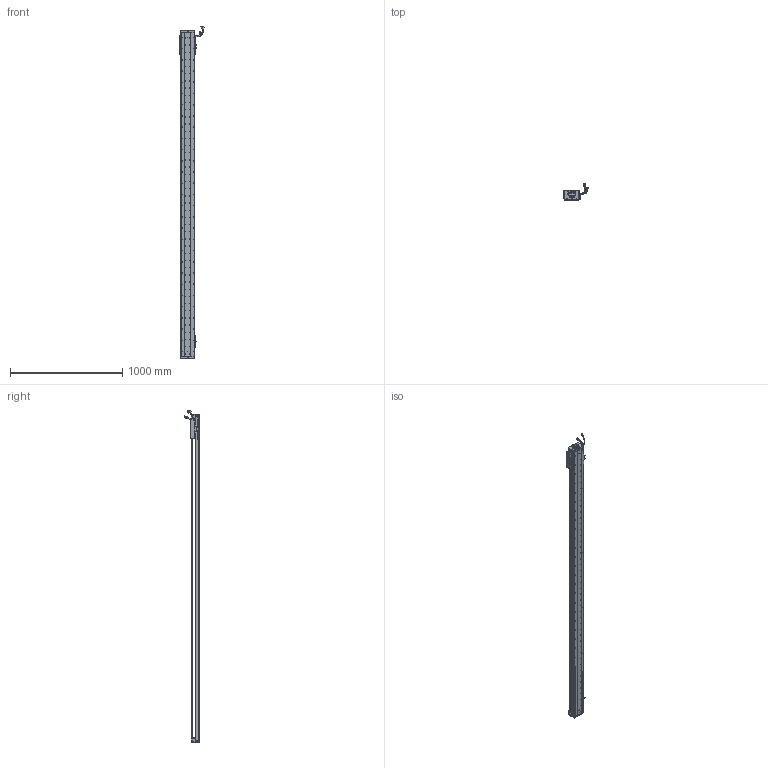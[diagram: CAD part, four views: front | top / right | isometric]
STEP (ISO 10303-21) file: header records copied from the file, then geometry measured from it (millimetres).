
FILE_DESCRIPTION (( 'STEP AP203' ), '1' );
FILE_NAME ('Z2-RY120D-1-L500-B-K.SLDASM_2650.step', '2021-05-17T05:39:50', ( '盈信电脑' ), ( '东莞市道滘镇水果街19号' ), 'SwSTEP 2.0', 'SolidWorks 2016', '' );
FILE_SCHEMA (( 'CONFIG_CONTROL_DESIGN' ));
Length unit declared in the file: millimetre
Products named in the file (37): 080黍杅芛假蚾釱21遴; LABEL; HARNESS-Part-2; Z-RY120D詩湍狟揤裔; Z-RY120D詩湍奻揤裔; COVER-Part-1; LABEL-Part-1; SEAL; SHIELDPLATE; 120-Z-臏賑輸盄裔(21遴); SCREW-M1.6; PSLH080_PSLF2; SCREW-M1.7-1; SCREW-M1.7; RY100FB-遵嫖萇覜茼え; SCREW-M1.6-1; SCALE-Part-2; SCREW-M1.6-2; HARNESS-Part-1; Z2-RY120D-1-L500-B-K.SLDASM_2650; 140雄赽晤鎢ん堤盄; SCALE-Part-1; HOLDER0; PBU_SHEET; 140蚥薯蝶輸; Z2-RY120-500-倰第菁釱_2650; COVER; Z2-RY120-L500詩湍100mm遵_2650; SCREW-M1.6-3; Z-120詩湍傷裔啣; 覜茼ん672; 672嫖萇羲壽假蚾釱; Z2-RY120铝滑块（21款）; 榋妏寠巭燃_暯_M2_2; SCALE; HARNESS; SEAL-Part-1
Assembly tree (43 placements, depth 4):
  Z2-RY120D-1-L500-B-K.SLDASM_2650
    Z2-RY120-500-倰第菁釱_2650
    覜茼ん672  x3
    672嫖萇羲壽假蚾釱  x2
    Z2-RY120铝滑块（21款）
    PSLH080_PSLF2
      SCALE
        SCALE-Part-1
        SCALE-Part-2
      HARNESS
        HARNESS-Part-1
        HARNESS-Part-2
      LABEL
        LABEL-Part-1
      COVER
        COVER-Part-1
      SEAL
        SEAL-Part-1
      榋妏寠巭燃_暯_M2_2
      SHIELDPLATE
      SCREW-M1.7
      SCREW-M1.7-1
      PBU_SHEET
      SCREW-M1.6
      SCREW-M1.6-1
      SCREW-M1.6-2
      SCREW-M1.6-3
      HOLDER0
    080黍杅芛假蚾釱21遴
    120-Z-臏賑輸盄裔(21遴)
    140雄赽晤鎢ん堤盄
    140蚥薯蝶輸  x2
    RY100FB-遵嫖萇覜茼え
    Z-120詩湍傷裔啣  x2
    Z-RY120D詩湍奻揤裔  x2
    Z-RY120D詩湍狟揤裔  x2
    Z2-RY120-L500詩湍100mm遵_2650
Bounding box: 222.83 x 140.94 x 2958.99 mm (x, y, z)
Volume: 6691875 mm3; surface area: 2376894.6 mm2
Topology: 38 solids, 38 shells, 3837 faces, 11010 edges, 6948 vertices
Faces by surface type: cylinder 2046, plane 1271, cone 398, torus 69, bspline 53
Entity records: 130723 total; most frequent: CARTESIAN_POINT 40716, ORIENTED_EDGE 18748, DIRECTION 17016, EDGE_CURVE 9374, AXIS2_PLACEMENT_3D 6298, VERTEX_POINT 6068, LINE 4420, VECTOR 4420
